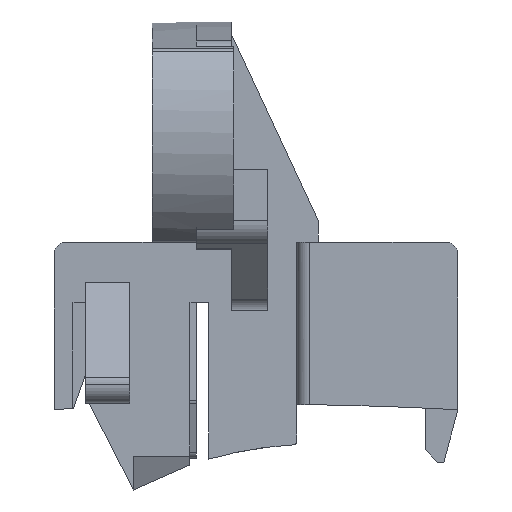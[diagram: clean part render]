
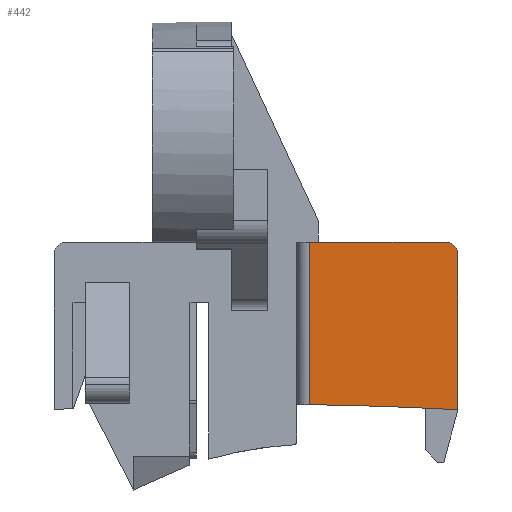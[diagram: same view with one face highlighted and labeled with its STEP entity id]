
A CAD part, left-side view. The second image highlights one B-rep face of the part: STEP entity #442.
In plain terms, the highlighted planar face has unit normal (-1, 0, 0) as drawn and (0, 0, -1) by its records, which use the part's own axes.
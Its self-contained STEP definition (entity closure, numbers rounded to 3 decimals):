
#5 = EDGE_CURVE ( 'NONE', #4641, #3553, #56, .T. ) ;
#56 = LINE ( 'NONE', #3013, #3144 ) ;
#73 = VERTEX_POINT ( 'NONE', #1539 ) ;
#88 = EDGE_LOOP ( 'NONE', ( #2304, #5899, #4282, #631, #4889 ) ) ;
#442 = ADVANCED_FACE ( 'NONE', ( #4271 ), #4252, .F. ) ;
#631 = ORIENTED_EDGE ( 'NONE', *, *, #4762, .T. ) ;
#677 = CIRCLE ( 'NONE', #6461, 1. ) ;
#911 = CARTESIAN_POINT ( 'NONE',  ( 0., 32.1, -8.7 ) ) ;
#1370 = DIRECTION ( 'NONE',  ( 0., 0., 1. ) ) ;
#1433 = DIRECTION ( 'NONE',  ( 1., 0., 0. ) ) ;
#1539 = CARTESIAN_POINT ( 'NONE',  ( -13.316, 32.1, -8.7 ) ) ;
#1584 = EDGE_CURVE ( 'NONE', #4102, #3553, #677, .T. ) ;
#1977 = CARTESIAN_POINT ( 'NONE',  ( -315.883, 15.9, -8.7 ) ) ;
#2304 = ORIENTED_EDGE ( 'NONE', *, *, #3104, .T. ) ;
#2367 = DIRECTION ( 'NONE',  ( 0., -1., 0. ) ) ;
#2441 = DIRECTION ( 'NONE',  ( 0., 0., -1. ) ) ;
#2488 = CIRCLE ( 'NONE', #3976, 303. ) ;
#2667 = CARTESIAN_POINT ( 'NONE',  ( -25., 20.3, -8.7 ) ) ;
#2963 = DIRECTION ( 'NONE',  ( 0., -1., 0. ) ) ;
#3013 = CARTESIAN_POINT ( 'NONE',  ( 0., 21.794, -8.7 ) ) ;
#3095 = DIRECTION ( 'NONE',  ( -1., 0., 0. ) ) ;
#3104 = EDGE_CURVE ( 'NONE', #73, #4102, #4076, .T. ) ;
#3144 = VECTOR ( 'NONE', #6088, 1000. ) ;
#3476 = VERTEX_POINT ( 'NONE', #3619 ) ;
#3553 = VERTEX_POINT ( 'NONE', #3854 ) ;
#3619 = CARTESIAN_POINT ( 'NONE',  ( -12.914, 20.3, -8.7 ) ) ;
#3628 = VECTOR ( 'NONE', #3095, 1000. ) ;
#3846 = AXIS2_PLACEMENT_3D ( 'NONE', #5970, #1370, #2367 ) ;
#3854 = CARTESIAN_POINT ( 'NONE',  ( 0., 31.1, -8.7 ) ) ;
#3976 = AXIS2_PLACEMENT_3D ( 'NONE', #1977, #5128, #4655 ) ;
#3996 = VECTOR ( 'NONE', #1433, 1000. ) ;
#4076 = LINE ( 'NONE', #911, #3996 ) ;
#4102 = VERTEX_POINT ( 'NONE', #5300 ) ;
#4252 = PLANE ( 'NONE',  #3846 ) ;
#4271 = FACE_OUTER_BOUND ( 'NONE', #88, .T. ) ;
#4282 = ORIENTED_EDGE ( 'NONE', *, *, #5, .F. ) ;
#4641 = VERTEX_POINT ( 'NONE', #6155 ) ;
#4655 = DIRECTION ( 'NONE',  ( 0., -1., 0. ) ) ;
#4762 = EDGE_CURVE ( 'NONE', #4641, #3476, #6307, .T. ) ;
#4889 = ORIENTED_EDGE ( 'NONE', *, *, #5178, .T. ) ;
#5128 = DIRECTION ( 'NONE',  ( 0., 0., 1. ) ) ;
#5178 = EDGE_CURVE ( 'NONE', #3476, #73, #2488, .T. ) ;
#5300 = CARTESIAN_POINT ( 'NONE',  ( -1., 32.1, -8.7 ) ) ;
#5899 = ORIENTED_EDGE ( 'NONE', *, *, #1584, .T. ) ;
#5970 = CARTESIAN_POINT ( 'NONE',  ( -25., 31.8, -8.7 ) ) ;
#6088 = DIRECTION ( 'NONE',  ( 0., 1., 0. ) ) ;
#6155 = CARTESIAN_POINT ( 'NONE',  ( 0., 20.3, -8.7 ) ) ;
#6307 = LINE ( 'NONE', #2667, #3628 ) ;
#6461 = AXIS2_PLACEMENT_3D ( 'NONE', #6496, #2441, #2963 ) ;
#6496 = CARTESIAN_POINT ( 'NONE',  ( -1., 31.1, -8.7 ) ) ;
